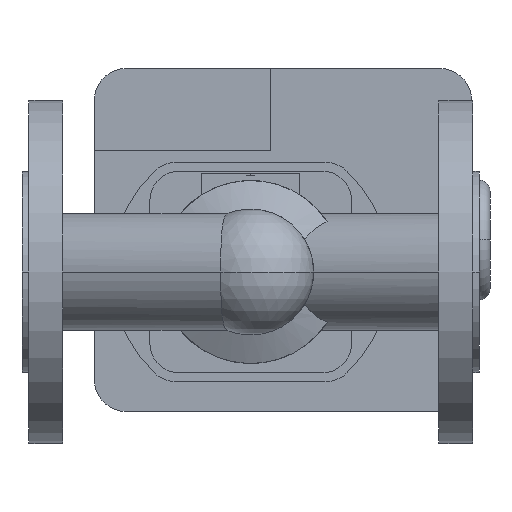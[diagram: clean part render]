
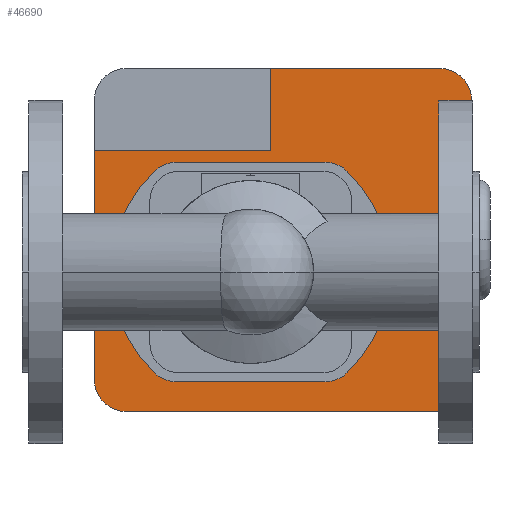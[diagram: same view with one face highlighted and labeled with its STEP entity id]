
A CAD part, front view. The second image highlights one B-rep face of the part: STEP entity #46690.
In plain terms, the highlighted planar face has unit normal (0, -1, 0).
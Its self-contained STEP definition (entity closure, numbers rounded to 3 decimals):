
#35540=CARTESIAN_POINT('',(159.96,320.,11.216));
#35550=VERTEX_POINT('',#35540);
#35580=CARTESIAN_POINT('',(150.,320.,0.));
#35590=DIRECTION('',(0.,1.,0.));
#35600=DIRECTION('',(0.,0.,1.));
#35610=AXIS2_PLACEMENT_3D('',#35580,#35590,#35600);
#35620=CIRCLE('',#35610,15.);
#35630=CARTESIAN_POINT('',(159.96,320.,-11.216));
#35640=VERTEX_POINT('',#35630);
#35650=EDGE_CURVE('',#35550,#35640,#35620,.T.);
#38370=CARTESIAN_POINT('',(142.116,320.,44.128));
#38380=VERTEX_POINT('',#38370);
#38410=CARTESIAN_POINT('',(100.,320.,0.));
#38420=DIRECTION('',(0.,1.,0.));
#38430=DIRECTION('',(0.69,0.,0.723));
#38440=AXIS2_PLACEMENT_3D('',#38410,#38420,#38430);
#38450=CIRCLE('',#38440,61.);
#38460=EDGE_CURVE('',#38380,#35550,#38450,.T.);
#38850=CARTESIAN_POINT('',(40.04,320.,-11.216));
#38860=VERTEX_POINT('',#38850);
#38890=CARTESIAN_POINT('',(50.,320.,0.));
#38900=DIRECTION('',(0.,1.,0.));
#38910=DIRECTION('',(0.,0.,-1.));
#38920=AXIS2_PLACEMENT_3D('',#38890,#38900,#38910);
#38930=CIRCLE('',#38920,15.);
#38940=CARTESIAN_POINT('',(40.04,320.,11.216));
#38950=VERTEX_POINT('',#38940);
#38960=EDGE_CURVE('',#38860,#38950,#38930,.T.);
#39950=CARTESIAN_POINT('',(57.884,320.,-44.128));
#39960=VERTEX_POINT('',#39950);
#39990=CARTESIAN_POINT('',(100.,320.,0.));
#40000=DIRECTION('',(0.,1.,0.));
#40010=DIRECTION('',(-0.69,0.,-0.723));
#40020=AXIS2_PLACEMENT_3D('',#39990,#40000,#40010);
#40030=CIRCLE('',#40020,61.);
#40040=EDGE_CURVE('',#39960,#38860,#40030,.T.);
#42420=CARTESIAN_POINT('',(196.6,320.,-47.));
#42430=VERTEX_POINT('',#42420);
#42460=CARTESIAN_POINT('',(196.6,320.,75.));
#42470=DIRECTION('',(0.,0.,-1.));
#42480=VECTOR('',#42470,1.);
#42490=LINE('',#42460,#42480);
#42500=CARTESIAN_POINT('',(196.6,320.,75.));
#42510=VERTEX_POINT('',#42500);
#42520=EDGE_CURVE('',#42510,#42430,#42490,.T.);
#45240=CARTESIAN_POINT('',(100.,320.,0.));
#45250=DIRECTION('',(0.,1.,0.));
#45260=DIRECTION('',(0.,0.,1.));
#45270=AXIS2_PLACEMENT_3D('',#45240,#45250,#45260);
#45280=PLANE('',#45270);
#45290=ORIENTED_EDGE('',*,*,#38460,.T.);
#45300=CARTESIAN_POINT('',(132.45,320.,34.));
#45310=DIRECTION('',(0.,1.,0.));
#45320=DIRECTION('',(0.,0.,1.));
#45330=AXIS2_PLACEMENT_3D('',#45300,#45310,#45320);
#45340=CIRCLE('',#45330,14.);
#45350=CARTESIAN_POINT('',(132.45,320.,48.));
#45360=VERTEX_POINT('',#45350);
#45370=EDGE_CURVE('',#45360,#38380,#45340,.T.);
#45380=ORIENTED_EDGE('',*,*,#45370,.T.);
#45390=CARTESIAN_POINT('',(83.775,320.,48.));
#45400=DIRECTION('',(1.,0.,0.));
#45410=VECTOR('',#45400,1.);
#45420=LINE('',#45390,#45410);
#45430=CARTESIAN_POINT('',(67.55,320.,48.));
#45440=VERTEX_POINT('',#45430);
#45450=EDGE_CURVE('',#45440,#45360,#45420,.T.);
#45460=ORIENTED_EDGE('',*,*,#45450,.T.);
#45470=CARTESIAN_POINT('',(67.55,320.,34.));
#45480=DIRECTION('',(0.,1.,0.));
#45490=DIRECTION('',(-0.69,0.,0.723));
#45500=AXIS2_PLACEMENT_3D('',#45470,#45480,#45490);
#45510=CIRCLE('',#45500,14.);
#45520=CARTESIAN_POINT('',(57.884,320.,44.128));
#45530=VERTEX_POINT('',#45520);
#45540=EDGE_CURVE('',#45530,#45440,#45510,.T.);
#45550=ORIENTED_EDGE('',*,*,#45540,.T.);
#45560=CARTESIAN_POINT('',(100.,320.,0.));
#45570=DIRECTION('',(0.,1.,0.));
#45580=DIRECTION('',(-0.69,0.,-0.723));
#45590=AXIS2_PLACEMENT_3D('',#45560,#45570,#45580);
#45600=CIRCLE('',#45590,61.);
#45610=EDGE_CURVE('',#38950,#45530,#45600,.T.);
#45620=ORIENTED_EDGE('',*,*,#45610,.T.);
#45630=ORIENTED_EDGE('',*,*,#38960,.T.);
#45640=ORIENTED_EDGE('',*,*,#40040,.T.);
#45650=CARTESIAN_POINT('',(67.55,320.,-34.));
#45660=DIRECTION('',(0.,1.,0.));
#45670=DIRECTION('',(0.,0.,-1.));
#45680=AXIS2_PLACEMENT_3D('',#45650,#45660,#45670);
#45690=CIRCLE('',#45680,14.);
#45700=CARTESIAN_POINT('',(67.55,320.,-48.));
#45710=VERTEX_POINT('',#45700);
#45720=EDGE_CURVE('',#45710,#39960,#45690,.T.);
#45730=ORIENTED_EDGE('',*,*,#45720,.T.);
#45740=CARTESIAN_POINT('',(116.225,320.,-48.));
#45750=DIRECTION('',(-1.,0.,0.));
#45760=VECTOR('',#45750,1.);
#45770=LINE('',#45740,#45760);
#45780=CARTESIAN_POINT('',(132.45,320.,-48.));
#45790=VERTEX_POINT('',#45780);
#45800=EDGE_CURVE('',#45790,#45710,#45770,.T.);
#45810=ORIENTED_EDGE('',*,*,#45800,.T.);
#45820=CARTESIAN_POINT('',(132.45,320.,-34.));
#45830=DIRECTION('',(0.,1.,0.));
#45840=DIRECTION('',(0.69,0.,-0.723));
#45850=AXIS2_PLACEMENT_3D('',#45820,#45830,#45840);
#45860=CIRCLE('',#45850,14.);
#45870=CARTESIAN_POINT('',(142.116,320.,-44.128));
#45880=VERTEX_POINT('',#45870);
#45890=EDGE_CURVE('',#45880,#45790,#45860,.T.);
#45900=ORIENTED_EDGE('',*,*,#45890,.T.);
#45910=CARTESIAN_POINT('',(100.,320.,0.));
#45920=DIRECTION('',(0.,1.,0.));
#45930=DIRECTION('',(0.69,0.,0.723));
#45940=AXIS2_PLACEMENT_3D('',#45910,#45920,#45930);
#45950=CIRCLE('',#45940,61.);
#45960=EDGE_CURVE('',#35640,#45880,#45950,.T.);
#45970=ORIENTED_EDGE('',*,*,#45960,.T.);
#45980=ORIENTED_EDGE('',*,*,#35650,.T.);
#45990=EDGE_LOOP('',(#45980,#45970,#45900,#45810,#45730,#45640,#45630,
#45620,#45550,#45460,#45380,#45290));
#46000=FACE_BOUND('',#45990,.T.);
#46010=CARTESIAN_POINT('',(108.6,320.,26.5));
#46020=DIRECTION('',(0.,0.,-1.));
#46030=VECTOR('',#46020,1.);
#46040=LINE('',#46010,#46030);
#46050=CARTESIAN_POINT('',(108.6,320.,89.));
#46060=VERTEX_POINT('',#46050);
#46070=CARTESIAN_POINT('',(108.6,320.,53.));
#46080=VERTEX_POINT('',#46070);
#46090=EDGE_CURVE('',#46060,#46080,#46040,.T.);
#46100=ORIENTED_EDGE('',*,*,#46090,.T.);
#46110=CARTESIAN_POINT('',(45.6,320.,89.));
#46120=DIRECTION('',(1.,0.,0.));
#46130=VECTOR('',#46120,1.);
#46140=LINE('',#46110,#46130);
#46150=CARTESIAN_POINT('',(182.6,320.,89.));
#46160=VERTEX_POINT('',#46150);
#46170=EDGE_CURVE('',#46060,#46160,#46140,.T.);
#46180=ORIENTED_EDGE('',*,*,#46170,.F.);
#46190=CARTESIAN_POINT('',(182.6,320.,75.));
#46200=DIRECTION('',(0.,1.,0.));
#46210=DIRECTION('',(0.,0.,1.));
#46220=AXIS2_PLACEMENT_3D('',#46190,#46200,#46210);
#46230=CIRCLE('',#46220,14.);
#46240=EDGE_CURVE('',#46160,#42510,#46230,.T.);
#46250=ORIENTED_EDGE('',*,*,#46240,.F.);
#46260=ORIENTED_EDGE('',*,*,#42520,.F.);
#46270=CARTESIAN_POINT('',(182.6,320.,-47.));
#46280=DIRECTION('',(0.,1.,0.));
#46290=DIRECTION('',(1.,0.,0.));
#46300=AXIS2_PLACEMENT_3D('',#46270,#46280,#46290);
#46310=CIRCLE('',#46300,14.);
#46320=CARTESIAN_POINT('',(182.6,320.,-61.));
#46330=VERTEX_POINT('',#46320);
#46340=EDGE_CURVE('',#42430,#46330,#46310,.T.);
#46350=ORIENTED_EDGE('',*,*,#46340,.F.);
#46360=CARTESIAN_POINT('',(182.6,320.,-61.));
#46370=DIRECTION('',(-1.,0.,0.));
#46380=VECTOR('',#46370,1.);
#46390=LINE('',#46360,#46380);
#46400=CARTESIAN_POINT('',(45.6,320.,-61.));
#46410=VERTEX_POINT('',#46400);
#46420=EDGE_CURVE('',#46330,#46410,#46390,.T.);
#46430=ORIENTED_EDGE('',*,*,#46420,.F.);
#46440=CARTESIAN_POINT('',(45.6,320.,-47.));
#46450=DIRECTION('',(0.,1.,0.));
#46460=DIRECTION('',(0.,0.,-1.));
#46470=AXIS2_PLACEMENT_3D('',#46440,#46450,#46460);
#46480=CIRCLE('',#46470,14.);
#46490=CARTESIAN_POINT('',(31.6,320.,-47.));
#46500=VERTEX_POINT('',#46490);
#46510=EDGE_CURVE('',#46410,#46500,#46480,.T.);
#46520=ORIENTED_EDGE('',*,*,#46510,.F.);
#46530=CARTESIAN_POINT('',(31.6,320.,-47.));
#46540=DIRECTION('',(0.,0.,1.));
#46550=VECTOR('',#46540,1.);
#46560=LINE('',#46530,#46550);
#46570=CARTESIAN_POINT('',(31.6,320.,53.));
#46580=VERTEX_POINT('',#46570);
#46590=EDGE_CURVE('',#46500,#46580,#46560,.T.);
#46600=ORIENTED_EDGE('',*,*,#46590,.F.);
#46610=CARTESIAN_POINT('',(65.3,320.,53.));
#46620=DIRECTION('',(-1.,0.,0.));
#46630=VECTOR('',#46620,1.);
#46640=LINE('',#46610,#46630);
#46650=EDGE_CURVE('',#46080,#46580,#46640,.T.);
#46660=ORIENTED_EDGE('',*,*,#46650,.T.);
#46670=EDGE_LOOP('',(#46660,#46600,#46520,#46430,#46350,#46260,#46250,
#46180,#46100));
#46680=FACE_OUTER_BOUND('',#46670,.T.);
#46690=ADVANCED_FACE('',(#46000,#46680),#45280,.F.);
